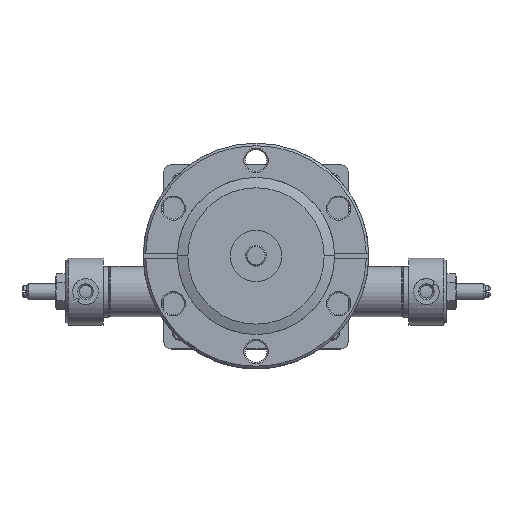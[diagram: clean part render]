
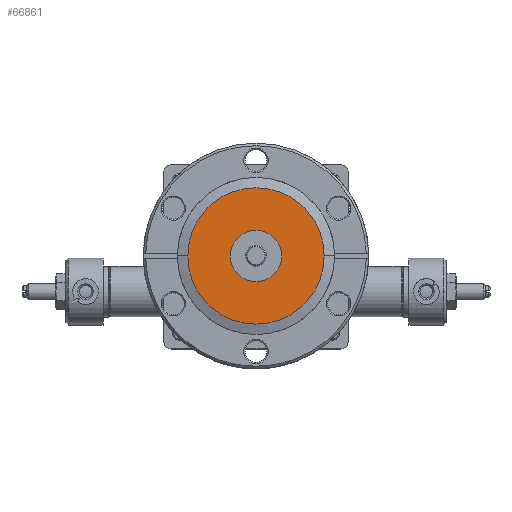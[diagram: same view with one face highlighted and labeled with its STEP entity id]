
A CAD part, top view. The second image highlights one B-rep face of the part: STEP entity #66861.
In plain terms, the highlighted planar face has unit normal (0, 0, 1).
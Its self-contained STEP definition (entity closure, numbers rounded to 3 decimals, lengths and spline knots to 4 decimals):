
#5429 = VERTEX_POINT ( 'NONE', #33983 ) ;
#6736 = VERTEX_POINT ( 'NONE', #35749 ) ;
#10982 = CIRCLE ( 'NONE', #24371, 0.7899 ) ;
#11134 = CIRCLE ( 'NONE', #24424, 2.0955 ) ;
#11683 = CARTESIAN_POINT ( 'NONE',  ( 0., 0., -0.1295 ) ) ;
#11684 = DIRECTION ( 'NONE',  ( 0., 0., 1. ) ) ;
#11685 = DIRECTION ( 'NONE',  ( -1., 0., 0. ) ) ;
#18507 = CARTESIAN_POINT ( 'NONE',  ( 0., 0., -0.1295 ) ) ;
#18508 = DIRECTION ( 'NONE',  ( 0., 0., -1. ) ) ;
#18509 = DIRECTION ( 'NONE',  ( 1., 0., 0. ) ) ;
#23238 = EDGE_CURVE ( 'NONE', #70297, #69287, #40854, .T. ) ;
#24371 = AXIS2_PLACEMENT_3D ( 'NONE', #18507, #18508, #18509 ) ;
#24424 = AXIS2_PLACEMENT_3D ( 'NONE', #11683, #11684, #11685 ) ;
#26257 = AXIS2_PLACEMENT_3D ( 'NONE', #26512, #26521, #26522 ) ;
#26512 = CARTESIAN_POINT ( 'NONE',  ( 2.0955, 0., -0.1295 ) ) ;
#26516 = PLANE ( 'NONE',  #26257 ) ;
#26521 = DIRECTION ( 'NONE',  ( 0., 0., 1. ) ) ;
#26522 = DIRECTION ( 'NONE',  ( 1., 0., 0. ) ) ;
#30117 = EDGE_CURVE ( 'NONE', #5429, #6736, #78545, .T. ) ;
#33983 = CARTESIAN_POINT ( 'NONE',  ( -2.0955, 0., -0.1295 ) ) ;
#35749 = CARTESIAN_POINT ( 'NONE',  ( 2.0955, 0., -0.1295 ) ) ;
#38548 = CARTESIAN_POINT ( 'NONE',  ( 0., 0., -0.1295 ) ) ;
#38846 = DIRECTION ( 'NONE',  ( 0., 0., -1. ) ) ;
#38893 = DIRECTION ( 'NONE',  ( 1., 0., 0. ) ) ;
#39298 = ORIENTED_EDGE ( 'NONE', *, *, #23238, .T. ) ;
#39923 = ORIENTED_EDGE ( 'NONE', *, *, #50836, .T. ) ;
#40170 = EDGE_LOOP ( 'NONE', ( #39298, #40187 ) ) ;
#40187 = ORIENTED_EDGE ( 'NONE', *, *, #50711, .T. ) ;
#40480 = ORIENTED_EDGE ( 'NONE', *, *, #30117, .T. ) ;
#40854 = CIRCLE ( 'NONE', #62436, 0.7899 ) ;
#44974 = EDGE_LOOP ( 'NONE', ( #40480, #39923 ) ) ;
#50498 = CARTESIAN_POINT ( 'NONE',  ( 0., 0., -0.1295 ) ) ;
#50499 = DIRECTION ( 'NONE',  ( 0., 0., 1. ) ) ;
#50500 = DIRECTION ( 'NONE',  ( -1., 0., 0. ) ) ;
#50711 = EDGE_CURVE ( 'NONE', #69287, #70297, #10982, .T. ) ;
#50836 = EDGE_CURVE ( 'NONE', #6736, #5429, #11134, .T. ) ;
#56715 = FACE_OUTER_BOUND ( 'NONE', #44974, .T. ) ;
#56730 = FACE_BOUND ( 'NONE', #40170, .T. ) ;
#62436 = AXIS2_PLACEMENT_3D ( 'NONE', #38548, #38846, #38893 ) ;
#62680 = AXIS2_PLACEMENT_3D ( 'NONE', #50498, #50499, #50500 ) ;
#64144 = CARTESIAN_POINT ( 'NONE',  ( -0.7899, 0., -0.1295 ) ) ;
#64294 = CARTESIAN_POINT ( 'NONE',  ( 0.7899, 0., -0.1295 ) ) ;
#66861 = ADVANCED_FACE ( 'NONE', ( #56715, #56730 ), #26516, .T. ) ;
#69287 = VERTEX_POINT ( 'NONE', #64144 ) ;
#70297 = VERTEX_POINT ( 'NONE', #64294 ) ;
#78545 = CIRCLE ( 'NONE', #62680, 2.0955 ) ;
